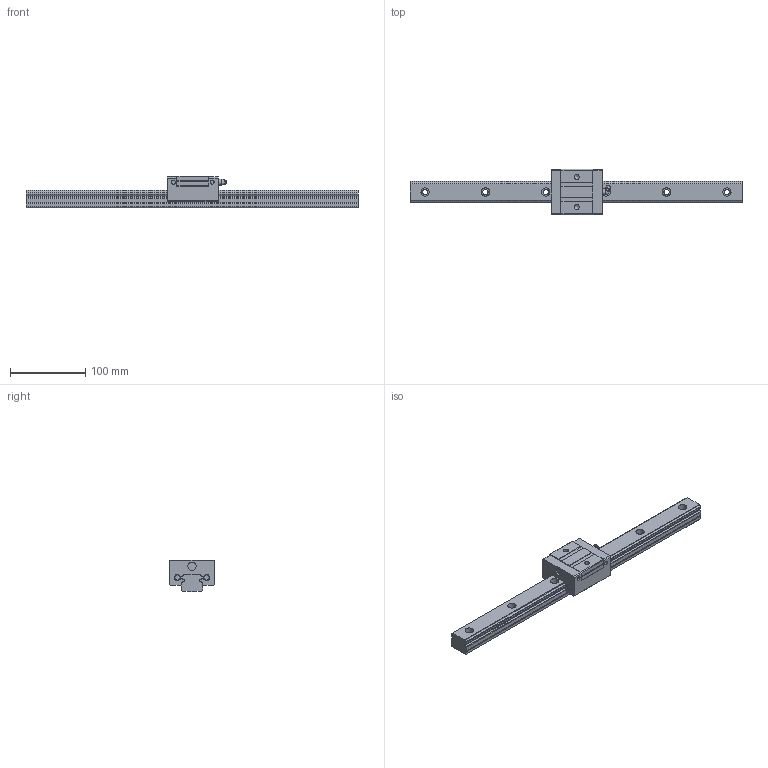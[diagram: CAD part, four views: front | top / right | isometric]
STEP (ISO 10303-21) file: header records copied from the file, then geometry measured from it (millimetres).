
FILE_DESCRIPTION((''),'2;1');
FILE_NAME('D:\製品 (図面)\カタログ用3D\リニアガイド関連\STEP形式\LGSR-S\LGSR30S.stp','2010-06-02T16:03:06',('Tsuchiya'),(''),'Autodesk Inventor 10','Autodesk Inventor 10','');
FILE_SCHEMA(('AUTOMOTIVE_DESIGN { 1 0 10303 214 1 1 1 1 }'));
Length unit declared in the file: millimetre
Products named in the file (3): LGSR30S; LGSR30S1; LGSR30S2
Assembly tree (2 placements, depth 2):
  LGSR30S
    LGSR30S1
    LGSR30S2
Bounding box: 440 x 60 x 42 mm (x, y, z)
Volume: 362508.1 mm3; surface area: 72452.6 mm2
Topology: 2 solids, 2 shells, 177 faces, 457 edges, 302 vertices
Faces by surface type: plane 93, cylinder 43, bspline 36, sphere 3, cone 2
Full cylindrical faces by diameter (mm): 5.2 x2, 7 x3, 7.7 x1, 8 x2, 11 x1
Entity records: 5702 total; most frequent: CARTESIAN_POINT 1501, DIRECTION 832, ORIENTED_EDGE 816, EDGE_CURVE 408, VERTEX_POINT 294, AXIS2_PLACEMENT_3D 282, VECTOR 268, LINE 268
